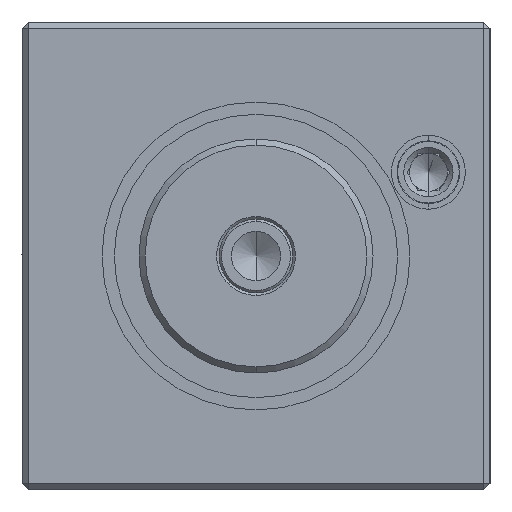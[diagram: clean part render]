
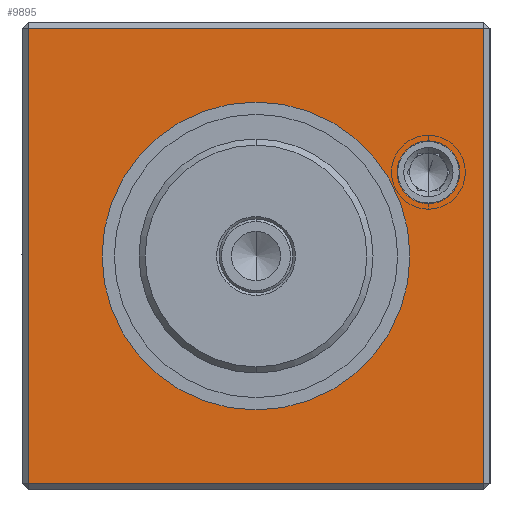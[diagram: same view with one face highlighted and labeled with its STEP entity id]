
A CAD part, left-side view. The second image highlights one B-rep face of the part: STEP entity #9895.
In plain terms, the highlighted planar face has unit normal (-1, 0, 0).
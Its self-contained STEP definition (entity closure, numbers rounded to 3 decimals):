
#9015 = VERTEX_POINT ( 'NONE', #26478 ) ;
#9016 = VERTEX_POINT ( 'NONE', #26479 ) ;
#9630 = EDGE_CURVE ( 'NONE', #10942, #10943, #30306, .T. ) ;
#9631 = EDGE_CURVE ( 'NONE', #10941, #10942, #30309, .T. ) ;
#9632 = EDGE_CURVE ( 'NONE', #10943, #10944, #30312, .T. ) ;
#9633 = EDGE_CURVE ( 'NONE', #10944, #10941, #30315, .T. ) ;
#9634 = EDGE_CURVE ( 'NONE', #9016, #9015, #24302, .T. ) ;
#9635 = EDGE_CURVE ( 'NONE', #11453, #11452, #24303, .T. ) ;
#9675 = EDGE_CURVE ( 'NONE', #9015, #9016, #24320, .T. ) ;
#9839 = EDGE_CURVE ( 'NONE', #11452, #11453, #24383, .T. ) ;
#9895 = ADVANCED_FACE ( 'NONE', ( #28543, #28532, #28548 ), #31401, .F. ) ;
#10214 = EDGE_LOOP ( 'NONE', ( #10586, #10590 ) ) ;
#10215 = EDGE_LOOP ( 'NONE', ( #10587, #10589 ) ) ;
#10216 = EDGE_LOOP ( 'NONE', ( #10580, #10584, #10583, #10585 ) ) ;
#10580 = ORIENTED_EDGE ( 'NONE', *, *, #9631, .T. ) ;
#10583 = ORIENTED_EDGE ( 'NONE', *, *, #9632, .T. ) ;
#10584 = ORIENTED_EDGE ( 'NONE', *, *, #9630, .T. ) ;
#10585 = ORIENTED_EDGE ( 'NONE', *, *, #9633, .T. ) ;
#10586 = ORIENTED_EDGE ( 'NONE', *, *, #9635, .F. ) ;
#10587 = ORIENTED_EDGE ( 'NONE', *, *, #9634, .F. ) ;
#10589 = ORIENTED_EDGE ( 'NONE', *, *, #9675, .F. ) ;
#10590 = ORIENTED_EDGE ( 'NONE', *, *, #9839, .F. ) ;
#10941 = VERTEX_POINT ( 'NONE', #31653 ) ;
#10942 = VERTEX_POINT ( 'NONE', #31654 ) ;
#10943 = VERTEX_POINT ( 'NONE', #31655 ) ;
#10944 = VERTEX_POINT ( 'NONE', #31656 ) ;
#11452 = VERTEX_POINT ( 'NONE', #32329 ) ;
#11453 = VERTEX_POINT ( 'NONE', #32330 ) ;
#24302 = CIRCLE ( 'NONE', #28283, 2.5 ) ;
#24303 = CIRCLE ( 'NONE', #28277, 12.5 ) ;
#24320 = CIRCLE ( 'NONE', #28321, 2.5 ) ;
#24383 = CIRCLE ( 'NONE', #28474, 12.5 ) ;
#26478 = CARTESIAN_POINT ( 'NONE',  ( 0., -14., 4.3 ) ) ;
#26479 = CARTESIAN_POINT ( 'NONE',  ( 0., -14., 9.3 ) ) ;
#28277 = AXIS2_PLACEMENT_3D ( 'NONE', #30320, #30321, #30322 ) ;
#28283 = AXIS2_PLACEMENT_3D ( 'NONE', #30305, #30318, #30319 ) ;
#28284 = VECTOR ( 'NONE', #30308, 1000. ) ;
#28285 = VECTOR ( 'NONE', #30311, 1000. ) ;
#28286 = VECTOR ( 'NONE', #30314, 1000. ) ;
#28288 = VECTOR ( 'NONE', #30317, 1000. ) ;
#28321 = AXIS2_PLACEMENT_3D ( 'NONE', #30440, #30441, #30442 ) ;
#28474 = AXIS2_PLACEMENT_3D ( 'NONE', #31173, #31174, #31175 ) ;
#28532 = FACE_BOUND ( 'NONE', #10215, .T. ) ;
#28543 = FACE_OUTER_BOUND ( 'NONE', #10216, .T. ) ;
#28548 = FACE_BOUND ( 'NONE', #10214, .T. ) ;
#28550 = AXIS2_PLACEMENT_3D ( 'NONE', #31402, #31403, #31404 ) ;
#30305 = CARTESIAN_POINT ( 'NONE',  ( 0., -14., 6.8 ) ) ;
#30306 = LINE ( 'NONE', #30307, #28284 ) ;
#30307 = CARTESIAN_POINT ( 'NONE',  ( 0., -19., -18.5 ) ) ;
#30308 = DIRECTION ( 'NONE',  ( 0., -1., 0. ) ) ;
#30309 = LINE ( 'NONE', #30310, #28285 ) ;
#30310 = CARTESIAN_POINT ( 'NONE',  ( 0., 18.5, 19. ) ) ;
#30311 = DIRECTION ( 'NONE',  ( 0., 0., -1. ) ) ;
#30312 = LINE ( 'NONE', #30313, #28286 ) ;
#30313 = CARTESIAN_POINT ( 'NONE',  ( 0., -18.5, 19. ) ) ;
#30314 = DIRECTION ( 'NONE',  ( 0., 0., 1. ) ) ;
#30315 = LINE ( 'NONE', #30316, #28288 ) ;
#30316 = CARTESIAN_POINT ( 'NONE',  ( 0., -19., 18.5 ) ) ;
#30317 = DIRECTION ( 'NONE',  ( 0., 1., 0. ) ) ;
#30318 = DIRECTION ( 'NONE',  ( -1., 0., 0. ) ) ;
#30319 = DIRECTION ( 'NONE',  ( 0., 0., 1. ) ) ;
#30320 = CARTESIAN_POINT ( 'NONE',  ( 0., 0., 0. ) ) ;
#30321 = DIRECTION ( 'NONE',  ( -1., 0., 0. ) ) ;
#30322 = DIRECTION ( 'NONE',  ( 0., -1., 0. ) ) ;
#30440 = CARTESIAN_POINT ( 'NONE',  ( 0., -14., 6.8 ) ) ;
#30441 = DIRECTION ( 'NONE',  ( -1., 0., 0. ) ) ;
#30442 = DIRECTION ( 'NONE',  ( 0., 0., 1. ) ) ;
#31173 = CARTESIAN_POINT ( 'NONE',  ( 0., 0., 0. ) ) ;
#31174 = DIRECTION ( 'NONE',  ( -1., 0., 0. ) ) ;
#31175 = DIRECTION ( 'NONE',  ( 0., -1., 0. ) ) ;
#31401 = PLANE ( 'NONE',  #28550 ) ;
#31402 = CARTESIAN_POINT ( 'NONE',  ( 0., -19., 19. ) ) ;
#31403 = DIRECTION ( 'NONE',  ( 1., 0., 0. ) ) ;
#31404 = DIRECTION ( 'NONE',  ( 0., 0., -1. ) ) ;
#31653 = CARTESIAN_POINT ( 'NONE',  ( 0., 18.5, 18.5 ) ) ;
#31654 = CARTESIAN_POINT ( 'NONE',  ( 0., 18.5, -18.5 ) ) ;
#31655 = CARTESIAN_POINT ( 'NONE',  ( 0., -18.5, -18.5 ) ) ;
#31656 = CARTESIAN_POINT ( 'NONE',  ( 0., -18.5, 18.5 ) ) ;
#32329 = CARTESIAN_POINT ( 'NONE',  ( 0., 12.5, 0. ) ) ;
#32330 = CARTESIAN_POINT ( 'NONE',  ( 0., -12.5, 0. ) ) ;
